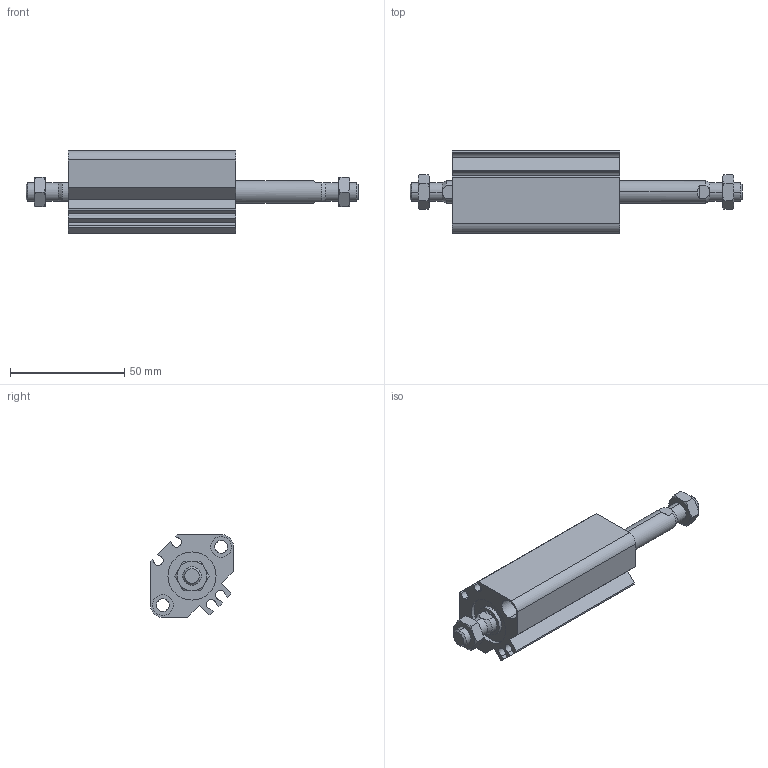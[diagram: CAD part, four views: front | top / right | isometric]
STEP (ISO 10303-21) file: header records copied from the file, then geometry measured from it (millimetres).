
FILE_DESCRIPTION (( 'STEP AP203' ), '1' );
FILE_NAME ('CCMB20-35M-P.STEP', '2020-08-10T11:21:57', ( '' ), ( '' ), 'SwSTEP 2.0', 'SolidWorks 2019', '' );
FILE_SCHEMA (( 'CONFIG_CONTROL_DESIGN' ));
Length unit declared in the file: millimetre
Products named in the file (1): CCMB20-35M-P
Bounding box: 145 x 36 x 36 mm (x, y, z)
Volume: 68287 mm3; surface area: 28505.9 mm2
Topology: 4 solids, 4 shells, 166 faces, 384 edges, 240 vertices
Faces by surface type: plane 66, cylinder 56, cone 44
Entity records: 5367 total; most frequent: CARTESIAN_POINT 1507, DIRECTION 806, ORIENTED_EDGE 768, EDGE_CURVE 384, AXIS2_PLACEMENT_3D 319, VERTEX_POINT 240, EDGE_LOOP 190, LINE 168
